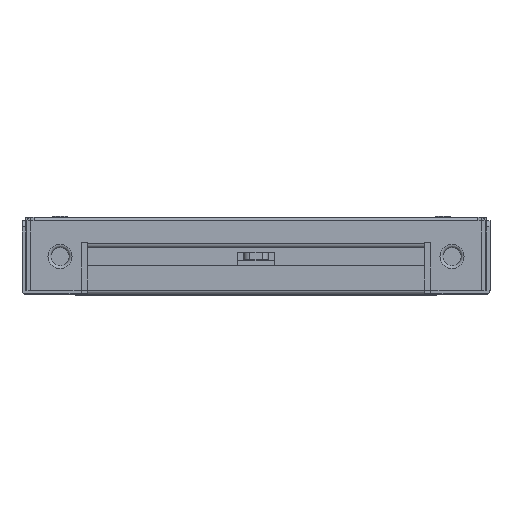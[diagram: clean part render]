
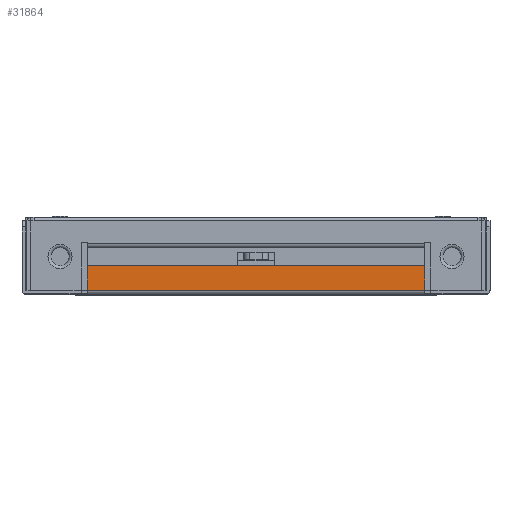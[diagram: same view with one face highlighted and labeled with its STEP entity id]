
A CAD part, top view. The second image highlights one B-rep face of the part: STEP entity #31864.
In plain terms, the highlighted planar face has unit normal (0, 0, 1).
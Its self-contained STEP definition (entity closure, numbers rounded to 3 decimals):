
#14558 = CYLINDRICAL_SURFACE('',#14559,0.6);
#14559 = AXIS2_PLACEMENT_3D('',#14560,#14561,#14562);
#14560 = CARTESIAN_POINT('',(-28.,-5.6,-0.6));
#14561 = DIRECTION('',(1.,0.,0.));
#14562 = DIRECTION('',(0.,-1.,0.));
#23969 = VERTEX_POINT('',#23970);
#23970 = CARTESIAN_POINT('',(-28.,-5.6,0.));
#23996 = EDGE_CURVE('',#23969,#23997,#23999,.T.);
#23997 = VERTEX_POINT('',#23998);
#23998 = CARTESIAN_POINT('',(28.,-5.6,0.));
#23999 = SURFACE_CURVE('',#24000,(#24004,#24011),.PCURVE_S1.);
#24000 = LINE('',#24001,#24002);
#24001 = CARTESIAN_POINT('',(-28.,-5.6,0.));
#24002 = VECTOR('',#24003,1.);
#24003 = DIRECTION('',(1.,0.,0.));
#24004 = PCURVE('',#14558,#24005);
#24005 = DEFINITIONAL_REPRESENTATION('',(#24006),#24010);
#24006 = LINE('',#24007,#24008);
#24007 = CARTESIAN_POINT('',(-1.571,0.));
#24008 = VECTOR('',#24009,1.);
#24009 = DIRECTION('',(-0.,1.));
#24010 = ( GEOMETRIC_REPRESENTATION_CONTEXT(2) 
PARAMETRIC_REPRESENTATION_CONTEXT() REPRESENTATION_CONTEXT('2D SPACE',''
  ) );
#24011 = PCURVE('',#24012,#24017);
#24012 = PLANE('',#24013);
#24013 = AXIS2_PLACEMENT_3D('',#24014,#24015,#24016);
#24014 = CARTESIAN_POINT('',(0.,-3.55,
    0.));
#24015 = DIRECTION('',(-0.,0.,-1.));
#24016 = DIRECTION('',(0.,-1.,0.));
#24017 = DEFINITIONAL_REPRESENTATION('',(#24018),#24022);
#24018 = LINE('',#24019,#24020);
#24019 = CARTESIAN_POINT('',(2.05,28.));
#24020 = VECTOR('',#24021,1.);
#24021 = DIRECTION('',(0.,-1.));
#24022 = ( GEOMETRIC_REPRESENTATION_CONTEXT(2) 
PARAMETRIC_REPRESENTATION_CONTEXT() REPRESENTATION_CONTEXT('2D SPACE',''
  ) );
#31822 = PLANE('',#31823);
#31823 = AXIS2_PLACEMENT_3D('',#31824,#31825,#31826);
#31824 = CARTESIAN_POINT('',(-28.,-5.6,-0.6));
#31825 = DIRECTION('',(-1.,0.,0.));
#31826 = DIRECTION('',(0.,1.,0.));
#31852 = PLANE('',#31853);
#31853 = AXIS2_PLACEMENT_3D('',#31854,#31855,#31856);
#31854 = CARTESIAN_POINT('',(28.,-1.5,-0.6));
#31855 = DIRECTION('',(1.,0.,0.));
#31856 = DIRECTION('',(0.,-1.,0.));
#31864 = ADVANCED_FACE('',(#31865),#24012,.F.);
#31865 = FACE_BOUND('',#31866,.F.);
#31866 = EDGE_LOOP('',(#31867,#31868,#31891,#31919));
#31867 = ORIENTED_EDGE('',*,*,#23996,.F.);
#31868 = ORIENTED_EDGE('',*,*,#31869,.T.);
#31869 = EDGE_CURVE('',#23969,#31870,#31872,.T.);
#31870 = VERTEX_POINT('',#31871);
#31871 = CARTESIAN_POINT('',(-28.,-1.5,0.));
#31872 = SURFACE_CURVE('',#31873,(#31877,#31884),.PCURVE_S1.);
#31873 = LINE('',#31874,#31875);
#31874 = CARTESIAN_POINT('',(-28.,-5.6,0.));
#31875 = VECTOR('',#31876,1.);
#31876 = DIRECTION('',(0.,1.,0.));
#31877 = PCURVE('',#24012,#31878);
#31878 = DEFINITIONAL_REPRESENTATION('',(#31879),#31883);
#31879 = LINE('',#31880,#31881);
#31880 = CARTESIAN_POINT('',(2.05,28.));
#31881 = VECTOR('',#31882,1.);
#31882 = DIRECTION('',(-1.,0.));
#31883 = ( GEOMETRIC_REPRESENTATION_CONTEXT(2) 
PARAMETRIC_REPRESENTATION_CONTEXT() REPRESENTATION_CONTEXT('2D SPACE',''
  ) );
#31884 = PCURVE('',#31822,#31885);
#31885 = DEFINITIONAL_REPRESENTATION('',(#31886),#31890);
#31886 = LINE('',#31887,#31888);
#31887 = CARTESIAN_POINT('',(0.,-0.6));
#31888 = VECTOR('',#31889,1.);
#31889 = DIRECTION('',(1.,0.));
#31890 = ( GEOMETRIC_REPRESENTATION_CONTEXT(2) 
PARAMETRIC_REPRESENTATION_CONTEXT() REPRESENTATION_CONTEXT('2D SPACE',''
  ) );
#31891 = ORIENTED_EDGE('',*,*,#31892,.T.);
#31892 = EDGE_CURVE('',#31870,#31893,#31895,.T.);
#31893 = VERTEX_POINT('',#31894);
#31894 = CARTESIAN_POINT('',(28.,-1.5,0.));
#31895 = SURFACE_CURVE('',#31896,(#31900,#31907),.PCURVE_S1.);
#31896 = LINE('',#31897,#31898);
#31897 = CARTESIAN_POINT('',(-28.,-1.5,0.));
#31898 = VECTOR('',#31899,1.);
#31899 = DIRECTION('',(1.,0.,0.));
#31900 = PCURVE('',#24012,#31901);
#31901 = DEFINITIONAL_REPRESENTATION('',(#31902),#31906);
#31902 = LINE('',#31903,#31904);
#31903 = CARTESIAN_POINT('',(-2.05,28.));
#31904 = VECTOR('',#31905,1.);
#31905 = DIRECTION('',(0.,-1.));
#31906 = ( GEOMETRIC_REPRESENTATION_CONTEXT(2) 
PARAMETRIC_REPRESENTATION_CONTEXT() REPRESENTATION_CONTEXT('2D SPACE',''
  ) );
#31907 = PCURVE('',#31908,#31913);
#31908 = PLANE('',#31909);
#31909 = AXIS2_PLACEMENT_3D('',#31910,#31911,#31912);
#31910 = CARTESIAN_POINT('',(-28.,-1.5,-0.6));
#31911 = DIRECTION('',(0.,1.,0.));
#31912 = DIRECTION('',(1.,0.,0.));
#31913 = DEFINITIONAL_REPRESENTATION('',(#31914),#31918);
#31914 = LINE('',#31915,#31916);
#31915 = CARTESIAN_POINT('',(0.,-0.6));
#31916 = VECTOR('',#31917,1.);
#31917 = DIRECTION('',(1.,0.));
#31918 = ( GEOMETRIC_REPRESENTATION_CONTEXT(2) 
PARAMETRIC_REPRESENTATION_CONTEXT() REPRESENTATION_CONTEXT('2D SPACE',''
  ) );
#31919 = ORIENTED_EDGE('',*,*,#31920,.T.);
#31920 = EDGE_CURVE('',#31893,#23997,#31921,.T.);
#31921 = SURFACE_CURVE('',#31922,(#31926,#31933),.PCURVE_S1.);
#31922 = LINE('',#31923,#31924);
#31923 = CARTESIAN_POINT('',(28.,-1.5,0.));
#31924 = VECTOR('',#31925,1.);
#31925 = DIRECTION('',(0.,-1.,0.));
#31926 = PCURVE('',#24012,#31927);
#31927 = DEFINITIONAL_REPRESENTATION('',(#31928),#31932);
#31928 = LINE('',#31929,#31930);
#31929 = CARTESIAN_POINT('',(-2.05,-28.));
#31930 = VECTOR('',#31931,1.);
#31931 = DIRECTION('',(1.,0.));
#31932 = ( GEOMETRIC_REPRESENTATION_CONTEXT(2) 
PARAMETRIC_REPRESENTATION_CONTEXT() REPRESENTATION_CONTEXT('2D SPACE',''
  ) );
#31933 = PCURVE('',#31852,#31934);
#31934 = DEFINITIONAL_REPRESENTATION('',(#31935),#31939);
#31935 = LINE('',#31936,#31937);
#31936 = CARTESIAN_POINT('',(0.,-0.6));
#31937 = VECTOR('',#31938,1.);
#31938 = DIRECTION('',(1.,0.));
#31939 = ( GEOMETRIC_REPRESENTATION_CONTEXT(2) 
PARAMETRIC_REPRESENTATION_CONTEXT() REPRESENTATION_CONTEXT('2D SPACE',''
  ) );
